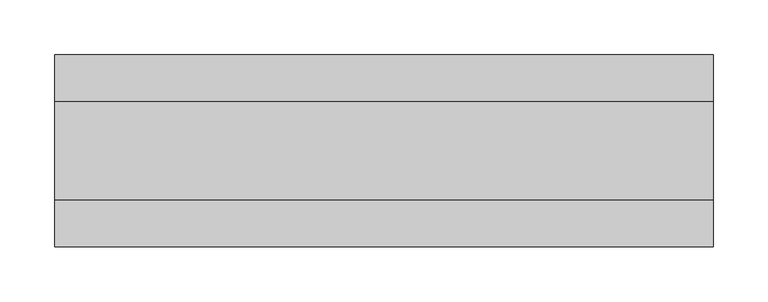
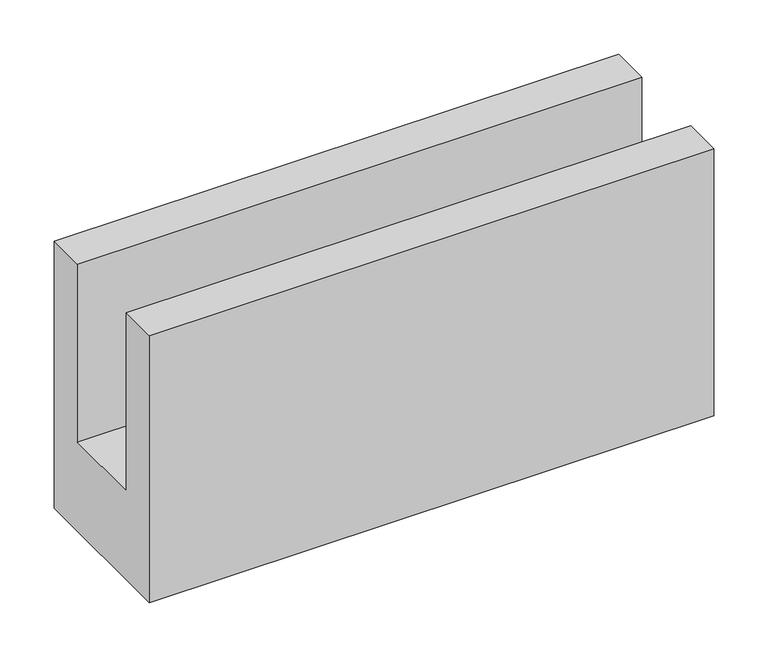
"""IFC4 building model written with IfcOpenShell, lengths in millimetres: proxy geometry, Módulo U de Concreto Celular - Celucon : MUCC 17,5x30x60cm (L x A x C)."""

from ifc_helpers import new_model, si_unit, frame, origin, place, context, project, spatial, polyline, outline, extrude, source, transform, mapped, element, save


def generic_models_885e98a3(model_context):
    return source(origin(), model_context, "Body", "SweptSolid", [
        extrude(outline(polyline([(87.5, 0.0), (-87.5, 0.0), (-87.5, 300.0), (-45.0, 300.0), (-45.0, 100.0), (45.0, 100.0), (45.0, 300.0), (87.5, 300.0), (87.5, 0.0)])), frame((-300.0, 0.0, 0.0), z_axis=(1.0, 0.0, 0.0), x_axis=(0.0, 1.0, 0.0)), (0.0, 0.0, 1.0), 600.0),
    ])


if __name__ == "__main__":
    model = new_model("IFC4")
    model_context = context("Model", 3, world=origin())
    ifc_project = project(units=[si_unit("LENGTHUNIT", "METRE", prefix="MILLI")], contexts=[model_context])
    site = spatial("IfcSite", under=ifc_project)
    building = spatial("IfcBuilding", under=site)
    placement = place(None, origin())
    generic_models_shape = generic_models_885e98a3(model_context)
    element("IfcBuildingElementProxy", 1, Name="Módulo U de Concreto Celular - Celucon : MUCC 17,5x30x60cm (L x A x C)", ObjectType="Módulo U de Concreto Celular - Celucon : MUCC 17,5x30x60cm (L x A x C)", at=placement, inside=building, context=model_context, shape_type="MappedRepresentation", body=[
        mapped(generic_models_shape, transform((0.0, 0.0, 0.0), x_axis=(1.0, 0.0, 0.0), y_axis=(0.0, 1.0, 0.0), z_axis=(0.0, 0.0, 1.0))),
    ])
    save(model, "model.ifc")
